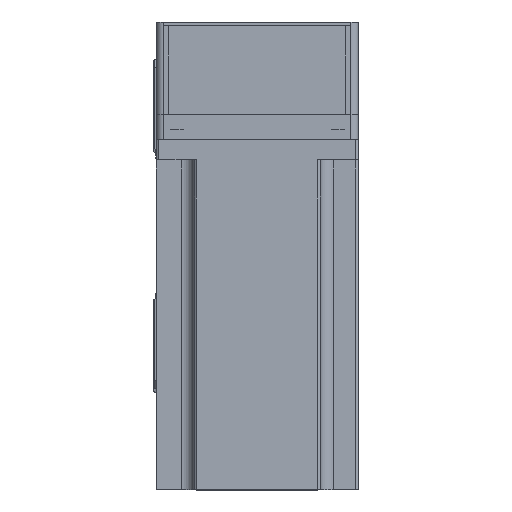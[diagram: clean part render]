
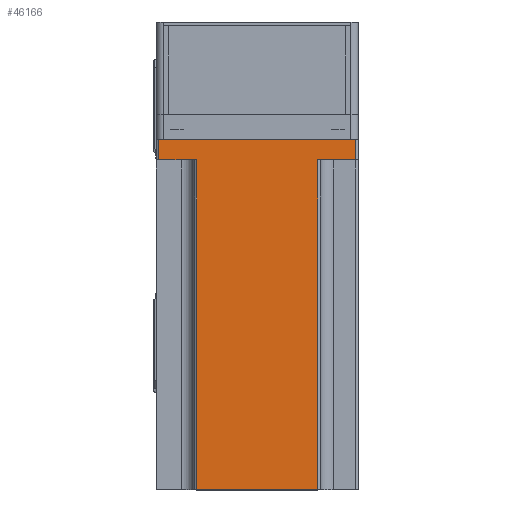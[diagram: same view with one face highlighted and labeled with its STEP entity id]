
A CAD part, top view. The second image highlights one B-rep face of the part: STEP entity #46166.
In plain terms, the highlighted planar face has unit normal (0, 0, 1) as drawn and (0, 1, 0) by its records, which use the part's own axes.
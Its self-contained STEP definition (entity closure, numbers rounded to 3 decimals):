
#1603 = VECTOR ( 'NONE', #33871, 1000. ) ;
#1613 = VERTEX_POINT ( 'NONE', #10309 ) ;
#1778 = CARTESIAN_POINT ( 'NONE',  ( -24., 40., 138.3 ) ) ;
#2030 = CARTESIAN_POINT ( 'NONE',  ( -25., 40., 8. ) ) ;
#2157 = ORIENTED_EDGE ( 'NONE', *, *, #20866, .T. ) ;
#2407 = ORIENTED_EDGE ( 'NONE', *, *, #24937, .F. ) ;
#2543 = VECTOR ( 'NONE', #27073, 1000. ) ;
#3335 = LINE ( 'NONE', #3367, #23221 ) ;
#3367 = CARTESIAN_POINT ( 'NONE',  ( 40., 40., 138.3 ) ) ;
#3873 = CARTESIAN_POINT ( 'NONE',  ( 24., 40., 138.3 ) ) ;
#4639 = CARTESIAN_POINT ( 'NONE',  ( 40., 40., 0. ) ) ;
#5746 = AXIS2_PLACEMENT_3D ( 'NONE', #21581, #47941, #25409 ) ;
#5775 = EDGE_CURVE ( 'NONE', #32867, #16488, #41257, .T. ) ;
#6717 = VERTEX_POINT ( 'NONE', #11054 ) ;
#7302 = VECTOR ( 'NONE', #35838, 1000. ) ;
#7485 = EDGE_CURVE ( 'NONE', #16488, #40635, #13085, .T. ) ;
#9609 = ORIENTED_EDGE ( 'NONE', *, *, #17520, .T. ) ;
#10162 = CARTESIAN_POINT ( 'NONE',  ( 39., 40., 0. ) ) ;
#10309 = CARTESIAN_POINT ( 'NONE',  ( -24., 40., 138.3 ) ) ;
#10701 = EDGE_CURVE ( 'NONE', #6717, #36601, #12686, .T. ) ;
#10899 = LINE ( 'NONE', #2030, #48547 ) ;
#11054 = CARTESIAN_POINT ( 'NONE',  ( 24., 40., 138.3 ) ) ;
#12686 = LINE ( 'NONE', #3873, #1603 ) ;
#13085 = LINE ( 'NONE', #40020, #31896 ) ;
#13940 = PLANE ( 'NONE',  #5746 ) ;
#16488 = VERTEX_POINT ( 'NONE', #36405 ) ;
#17111 = ORIENTED_EDGE ( 'NONE', *, *, #7485, .T. ) ;
#17284 = LINE ( 'NONE', #1778, #7302 ) ;
#17520 = EDGE_CURVE ( 'NONE', #23241, #1613, #17284, .T. ) ;
#18621 = VECTOR ( 'NONE', #32607, 1000. ) ;
#20866 = EDGE_CURVE ( 'NONE', #40635, #23241, #10899, .T. ) ;
#21581 = CARTESIAN_POINT ( 'NONE',  ( 40., 40., 138.3 ) ) ;
#23221 = VECTOR ( 'NONE', #37107, 1000. ) ;
#23241 = VERTEX_POINT ( 'NONE', #27519 ) ;
#23633 = FACE_OUTER_BOUND ( 'NONE', #36682, .T. ) ;
#24937 = EDGE_CURVE ( 'NONE', #25412, #36601, #38651, .T. ) ;
#25409 = DIRECTION ( 'NONE',  ( 1., 0., 0. ) ) ;
#25412 = VERTEX_POINT ( 'NONE', #32419 ) ;
#27073 = DIRECTION ( 'NONE',  ( -1., 0., 0. ) ) ;
#27519 = CARTESIAN_POINT ( 'NONE',  ( -24., 40., 8. ) ) ;
#28781 = CARTESIAN_POINT ( 'NONE',  ( 25., 40., 8. ) ) ;
#31590 = CARTESIAN_POINT ( 'NONE',  ( -39., 40., 8. ) ) ;
#31896 = VECTOR ( 'NONE', #32779, 1000. ) ;
#31994 = DIRECTION ( 'NONE',  ( 1., 0., 0. ) ) ;
#32086 = ORIENTED_EDGE ( 'NONE', *, *, #10701, .T. ) ;
#32419 = CARTESIAN_POINT ( 'NONE',  ( 39., 40., 8. ) ) ;
#32607 = DIRECTION ( 'NONE',  ( -1., 0., 0. ) ) ;
#32779 = DIRECTION ( 'NONE',  ( 0., 0., 1. ) ) ;
#32867 = VERTEX_POINT ( 'NONE', #10162 ) ;
#33871 = DIRECTION ( 'NONE',  ( 0., 0., -1. ) ) ;
#34156 = EDGE_CURVE ( 'NONE', #25412, #32867, #37700, .T. ) ;
#35838 = DIRECTION ( 'NONE',  ( 0., 0., 1. ) ) ;
#36405 = CARTESIAN_POINT ( 'NONE',  ( -39., 40., 0. ) ) ;
#36508 = VECTOR ( 'NONE', #42382, 1000. ) ;
#36601 = VERTEX_POINT ( 'NONE', #45075 ) ;
#36682 = EDGE_LOOP ( 'NONE', ( #2157, #9609, #41540, #32086, #2407, #45169, #44137, #17111 ) ) ;
#37107 = DIRECTION ( 'NONE',  ( -1., 0., 0. ) ) ;
#37700 = LINE ( 'NONE', #38399, #36508 ) ;
#38399 = CARTESIAN_POINT ( 'NONE',  ( 39., 40., 138.3 ) ) ;
#38651 = LINE ( 'NONE', #28781, #18621 ) ;
#39217 = EDGE_CURVE ( 'NONE', #6717, #1613, #3335, .T. ) ;
#40020 = CARTESIAN_POINT ( 'NONE',  ( -39., 40., 138.3 ) ) ;
#40635 = VERTEX_POINT ( 'NONE', #31590 ) ;
#41257 = LINE ( 'NONE', #4639, #2543 ) ;
#41540 = ORIENTED_EDGE ( 'NONE', *, *, #39217, .F. ) ;
#42382 = DIRECTION ( 'NONE',  ( 0., 0., -1. ) ) ;
#44137 = ORIENTED_EDGE ( 'NONE', *, *, #5775, .T. ) ;
#45075 = CARTESIAN_POINT ( 'NONE',  ( 24., 40., 8. ) ) ;
#45169 = ORIENTED_EDGE ( 'NONE', *, *, #34156, .T. ) ;
#46166 = ADVANCED_FACE ( 'NONE', ( #23633 ), #13940, .F. ) ;
#47941 = DIRECTION ( 'NONE',  ( 0., -1., 0. ) ) ;
#48547 = VECTOR ( 'NONE', #31994, 1000. ) ;
